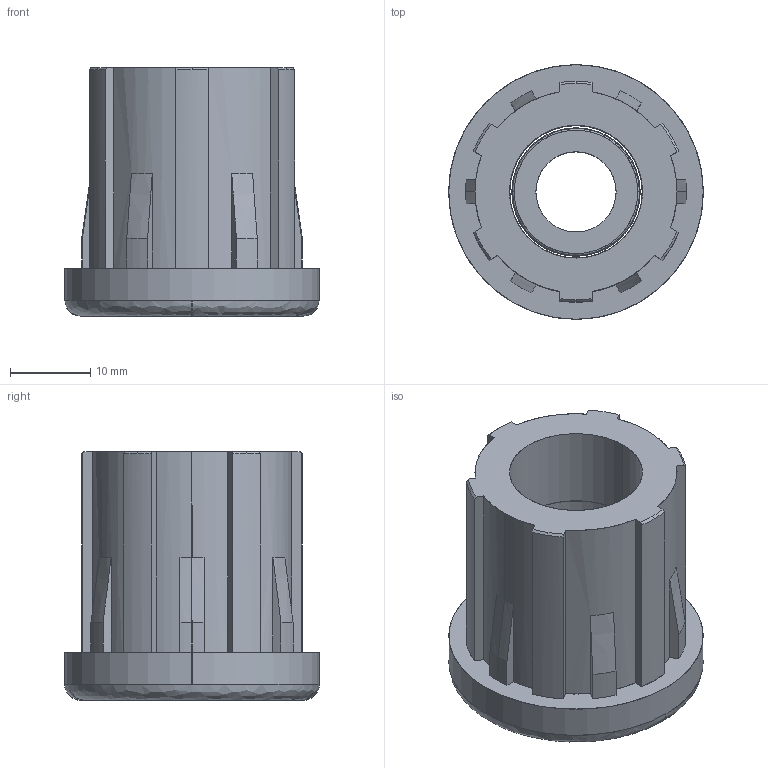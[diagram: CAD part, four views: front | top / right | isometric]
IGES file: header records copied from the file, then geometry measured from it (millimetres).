
Start section: SolidWorks IGES file using analytic representation for surfaces
Global section: file name: Y:\Tecnodin, S.L\PLAPP-Dirección - Documentos\General\Models CAD\Actiby\42006835210.IGS; native system: SolidWorks 2018; preprocessor: SolidWorks 2018; author: GerPro; date: 200225.184842; units: millimetre
Bounding box: 31.75 x 31.75 x 31 mm (x, y, z)
Surface area: 6836.9 mm2 (no closed solid volume)
Topology: 0 solids, 0 shells, 97 faces, 974 edges, 974 vertices
Faces by surface type: revolution 62, bspline 35
